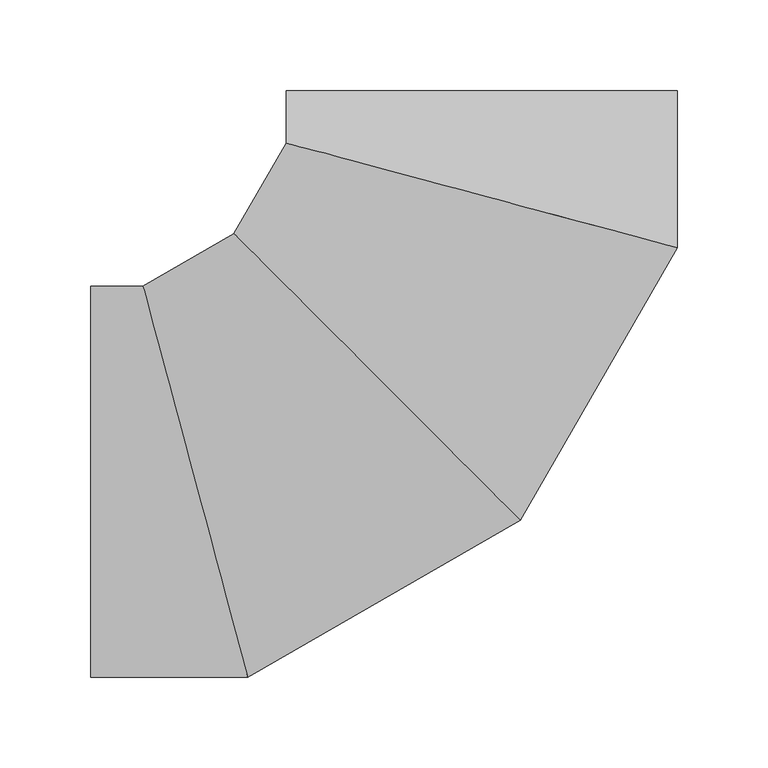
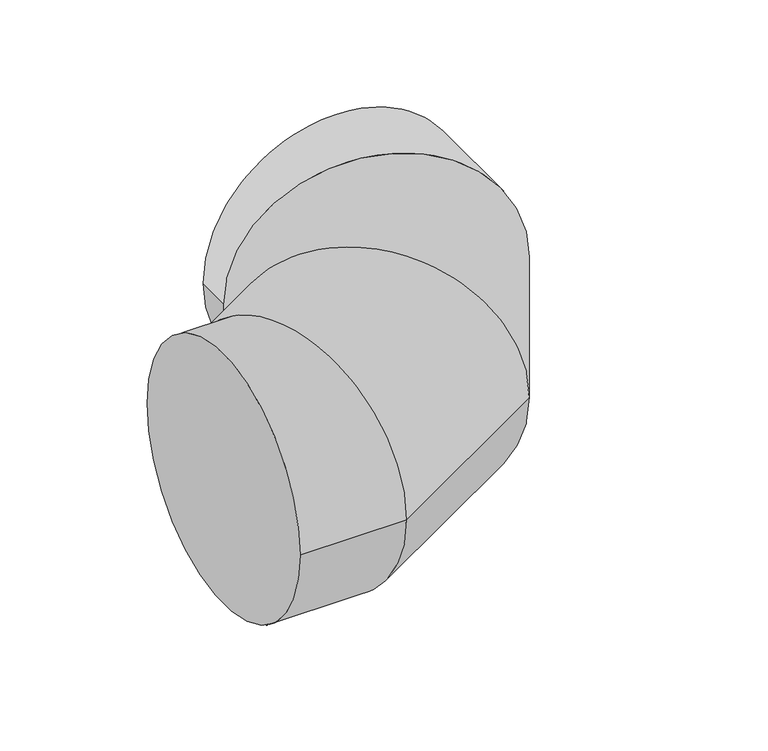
"""IFC4 building model written with IfcOpenShell, lengths in millimetres: duct fitting geometry, 17_Отвод_Заключение : 10_Отвод_3D объект."""

from ifc_helpers import new_model, si_unit, frame, origin, place, context, project, spatial, circle_curve, ellipse_curve, source, transform, mapped, element, save
from ifc_brep_helpers import plane_surface, cylinder_surface, advanced_brep


def duct_fitting_6987a024(model_context):
    return source(origin(), model_context, "Body", "AdvancedBrep", [
        advanced_brep(
        [(-216.0, -108.0, 0.0), (-216.0, 108.0, 0.0), (-129.1844617, -108.0, 0.0), (-187.0614872, 108.0, 0.0), (21.1844617, -21.1844617, 0.0), (-136.9385128, 136.9385128, 0.0), (108.0, 129.1844617, 0.0), (-108.0, 187.0614872, 0.0), (108.0, 216.0, 0.0), (-108.0, 216.0, 0.0)],
        [
            (0, 1, circle_curve(frame((-216.0, 0.0, 0.0), z_axis=(-1.0, 0.0, 0.0), x_axis=(0.0, 1.0, 0.0)), 108.0)),
            (1, 0, circle_curve(frame((-216.0, 0.0, 0.0), z_axis=(-1.0, 0.0, 0.0), x_axis=(0.0, 1.0, 0.0)), 108.0)),
            (0, 2),
            (2, 3, ellipse_curve(frame((-158.1229744, 0.0, 0.0), z_axis=(-0.9659258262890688, -0.25881904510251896, 0.0), x_axis=(-0.25881904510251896, 0.9659258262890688, 0.0)), 111.8098275, 108.0)),
            (3, 1),
            (3, 2, ellipse_curve(frame((-158.1229744, 0.0, 0.0), z_axis=(-0.9659258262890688, -0.25881904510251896, 0.0), x_axis=(-0.25881904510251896, 0.9659258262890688, 0.0)), 111.8098275, 108.0)),
            (2, 4),
            (4, 5, ellipse_curve(frame((-57.8770256, 57.8770256, 0.0), z_axis=(-0.7071067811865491, -0.7071067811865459, 0.0), x_axis=(-0.7071067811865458, 0.7071067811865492, 0.0)), 111.8098275, 108.0)),
            (5, 3),
            (5, 4, ellipse_curve(frame((-57.8770256, 57.8770256, 0.0), z_axis=(-0.7071067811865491, -0.7071067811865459, 0.0), x_axis=(-0.7071067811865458, 0.7071067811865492, 0.0)), 111.8098275, 108.0)),
            (4, 6),
            (6, 7, ellipse_curve(frame((0.0, 158.1229744, 0.0), z_axis=(-0.25881904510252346, -0.9659258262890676, 0.0), x_axis=(-0.9659258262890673, 0.2588190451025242, 0.0)), 111.8098275, 108.0)),
            (7, 5),
            (7, 6, ellipse_curve(frame((0.0, 158.1229744, 0.0), z_axis=(-0.25881904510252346, -0.9659258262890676, 0.0), x_axis=(-0.9659258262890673, 0.2588190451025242, 0.0)), 111.8098275, 108.0)),
            (8, 9, circle_curve(frame((0.0, 216.0, 0.0), z_axis=(0.0, 1.0, 0.0), x_axis=(-1.0, 0.0, 0.0)), 108.0)),
            (9, 8, circle_curve(frame((0.0, 216.0, 0.0), z_axis=(0.0, 1.0, 0.0), x_axis=(-1.0, 0.0, 0.0)), 108.0)),
            (6, 8),
            (9, 7),
        ],
        [
            plane_surface(frame((-216.0, 0.0, 0.0), z_axis=(-1.0, 0.0, 0.0), x_axis=(0.0, 0.0, 1.0))),
            cylinder_surface(frame((-216.0, 0.0, 0.0), z_axis=(-1.0, 0.0, 0.0), x_axis=(0.0, 1.0, 0.0)), 108.0),
            cylinder_surface(frame((-158.1229744, 0.0, 0.0), z_axis=(-0.8660254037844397, -0.4999999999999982, 0.0), x_axis=(-0.4999999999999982, 0.8660254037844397, 0.0)), 108.0),
            cylinder_surface(frame((-57.8770256, 57.8770256, 0.0), z_axis=(-0.5000000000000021, -0.8660254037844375, 0.0), x_axis=(-0.8660254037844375, 0.5000000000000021, 0.0)), 108.0),
            plane_surface(frame((0.0, 216.0, 0.0), z_axis=(0.0, 1.0, 0.0), x_axis=(0.0, 0.0, 1.0))),
            cylinder_surface(frame((0.0, 158.1229744, 0.0), z_axis=(0.0, -1.0, 0.0), x_axis=(-1.0, 0.0, 0.0)), 108.0),
        ],
        [
            (0, [[1, 2]]),
            (1, [[-1, 3, 4, 5]]),
            (1, [[-2, -5, 6, -3]]),
            (2, [[-4, 7, 8, 9]]),
            (2, [[-6, -9, 10, -7]]),
            (3, [[-8, 11, 12, 13]]),
            (3, [[-10, -13, 14, -11]]),
            (4, [[15, 16]]),
            (5, [[-12, 17, -16, 18]]),
            (5, [[-14, -18, -15, -17]]),
        ],
    ),
    ])


if __name__ == "__main__":
    model = new_model("IFC4")
    model_context = context("Model", 3, world=origin())
    ifc_project = project(units=[si_unit("LENGTHUNIT", "METRE", prefix="MILLI")], contexts=[model_context])
    site = spatial("IfcSite", under=ifc_project)
    building = spatial("IfcBuilding", under=site)
    placement = place(None, origin())
    duct_fitting_shape = duct_fitting_6987a024(model_context)
    element("IfcDuctFitting", 1, ObjectType="17_Отвод_Заключение : 10_Отвод_3D объект", at=placement, inside=building, context=model_context, shape_type="MappedRepresentation", body=[
        mapped(duct_fitting_shape, transform((0.0, 0.0, 0.0), x_axis=(1.0, 0.0, 0.0), y_axis=(0.0, 1.0, 0.0), z_axis=(0.0, 0.0, 1.0))),
    ])
    save(model, "model.ifc")
